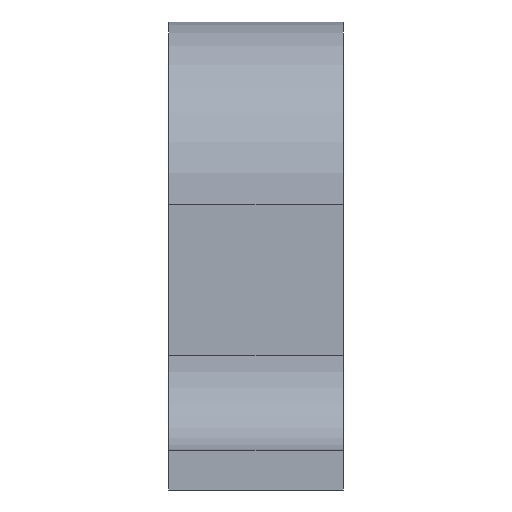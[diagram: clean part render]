
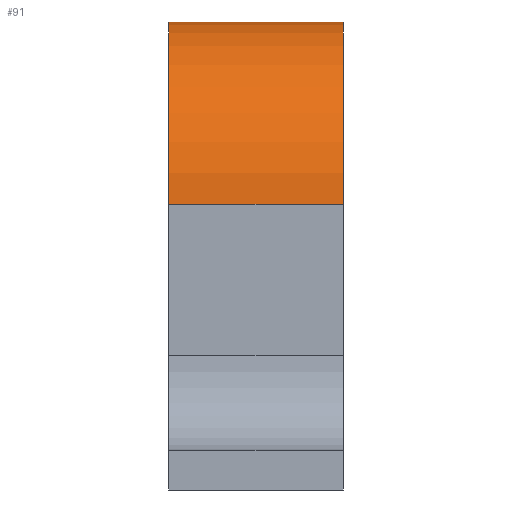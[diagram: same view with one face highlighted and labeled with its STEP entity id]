
A CAD part, front view. The second image highlights one B-rep face of the part: STEP entity #91.
In plain terms, the highlighted cylindrical face has radius 23 mm (diameter 46 mm), a partial arc.
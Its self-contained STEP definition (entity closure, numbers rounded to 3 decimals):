
#52=CARTESIAN_POINT('Axis2P3D Location',(11.,0.,0.)) ;
#57=CARTESIAN_POINT('Line Origine',(11.,23.,0.)) ;
#61=CARTESIAN_POINT('Vertex',(0.,23.,0.)) ;
#63=CARTESIAN_POINT('Vertex',(22.,23.,0.)) ;
#66=CARTESIAN_POINT('Axis2P3D Location',(0.,0.,0.)) ;
#70=CARTESIAN_POINT('Vertex',(0.,-23.,0.)) ;
#73=CARTESIAN_POINT('Line Origine',(11.,-23.,0.)) ;
#77=CARTESIAN_POINT('Vertex',(22.,-23.,0.)) ;
#80=CARTESIAN_POINT('Axis2P3D Location',(22.,0.,0.)) ;
#53=DIRECTION('Axis2P3D Direction',(1.,0.,0.)) ;
#54=DIRECTION('Axis2P3D XDirection',(0.,1.,0.)) ;
#58=DIRECTION('Vector Direction',(1.,0.,0.)) ;
#67=DIRECTION('Axis2P3D Direction',(1.,0.,0.)) ;
#74=DIRECTION('Vector Direction',(1.,0.,0.)) ;
#81=DIRECTION('Axis2P3D Direction',(1.,0.,0.)) ;
#55=AXIS2_PLACEMENT_3D('Cylinder Axis2P3D',#52,#53,#54) ;
#68=AXIS2_PLACEMENT_3D('Circle Axis2P3D',#66,#67,$) ;
#82=AXIS2_PLACEMENT_3D('Circle Axis2P3D',#80,#81,$) ;
#86=ORIENTED_EDGE('',*,*,#65,.F.) ;
#87=ORIENTED_EDGE('',*,*,#72,.T.) ;
#88=ORIENTED_EDGE('',*,*,#79,.T.) ;
#89=ORIENTED_EDGE('',*,*,#84,.F.) ;
#59=VECTOR('Line Direction',#58,1.) ;
#75=VECTOR('Line Direction',#74,1.) ;
#91=ADVANCED_FACE('PartBody',(#90),#56,.T.) ;
#69=CIRCLE('generated circle',#68,23.) ;
#83=CIRCLE('generated circle',#82,23.) ;
#56=CYLINDRICAL_SURFACE('generated cylinder',#55,23.) ;
#65=EDGE_CURVE('',#62,#64,#60,.T.) ;
#72=EDGE_CURVE('',#62,#71,#69,.T.) ;
#79=EDGE_CURVE('',#71,#78,#76,.T.) ;
#84=EDGE_CURVE('',#64,#78,#83,.T.) ;
#85=EDGE_LOOP('',(#86,#87,#88,#89)) ;
#90=FACE_OUTER_BOUND('',#85,.T.) ;
#60=LINE('Line',#57,#59) ;
#76=LINE('Line',#73,#75) ;
#62=VERTEX_POINT('',#61) ;
#64=VERTEX_POINT('',#63) ;
#71=VERTEX_POINT('',#70) ;
#78=VERTEX_POINT('',#77) ;
